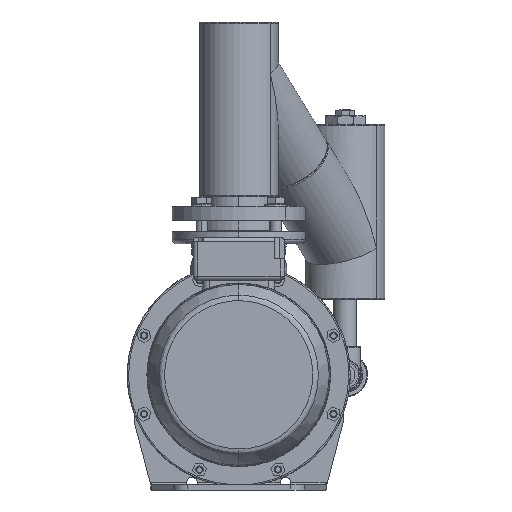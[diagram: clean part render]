
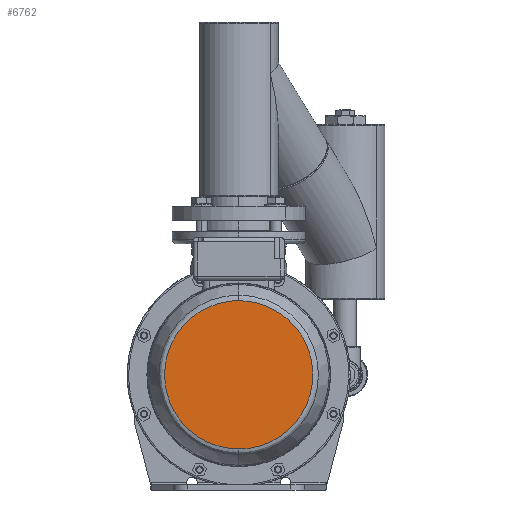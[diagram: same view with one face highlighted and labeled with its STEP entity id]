
A CAD part, front view. The second image highlights one B-rep face of the part: STEP entity #6762.
In plain terms, the highlighted planar face has unit normal (0, -1, 0).
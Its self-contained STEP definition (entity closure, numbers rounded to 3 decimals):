
#6645 = ORIENTED_EDGE ( 'NONE', *, *, #77966, .F. ) ;
#6762 = ADVANCED_FACE ( 'NONE', ( #123603 ), #123488, .T. ) ;
#6821 = ORIENTED_EDGE ( 'NONE', *, *, #6871, .F. ) ;
#6867 = EDGE_LOOP ( 'NONE', ( #6645, #6821 ) ) ;
#6871 = EDGE_CURVE ( 'NONE', #78052, #78041, #123949, .T. ) ;
#77966 = EDGE_CURVE ( 'NONE', #78041, #78052, #79056, .T. ) ;
#78041 = VERTEX_POINT ( 'NONE', #79353 ) ;
#78052 = VERTEX_POINT ( 'NONE', #79109 ) ;
#79056 =( BOUNDED_CURVE ( )  B_SPLINE_CURVE ( 3, ( #79144, #79143, #79140, #79139 ),
 .UNSPECIFIED., .F., .T. ) 
 B_SPLINE_CURVE_WITH_KNOTS ( ( 4, 4 ),
 ( 0., 1. ),
 .UNSPECIFIED. ) 
 CURVE ( )  GEOMETRIC_REPRESENTATION_ITEM ( )  RATIONAL_B_SPLINE_CURVE ( ( 1., 0.333, 0.333, 1. ) ) 
 REPRESENTATION_ITEM ( '' )  );
#79109 = CARTESIAN_POINT ( 'NONE',  ( -156.369, -795.681, 128.019 ) ) ;
#79139 = CARTESIAN_POINT ( 'NONE',  ( -156.369, -795.681, 128.019 ) ) ;
#79140 = CARTESIAN_POINT ( 'NONE',  ( -362.407, -795.681, 128.019 ) ) ;
#79143 = CARTESIAN_POINT ( 'NONE',  ( -362.407, -795.681, -78.019 ) ) ;
#79144 = CARTESIAN_POINT ( 'NONE',  ( -156.369, -795.681, -78.019 ) ) ;
#79353 = CARTESIAN_POINT ( 'NONE',  ( -156.369, -795.681, -78.019 ) ) ;
#123488 = PLANE ( 'NONE',  #123601 ) ;
#123598 = DIRECTION ( 'NONE',  ( 1., 0., 0. ) ) ;
#123599 = DIRECTION ( 'NONE',  ( 0., -1., 0. ) ) ;
#123600 = CARTESIAN_POINT ( 'NONE',  ( -156.369, -795.681, 25. ) ) ;
#123601 = AXIS2_PLACEMENT_3D ( 'NONE', #123600, #123599, #123598 ) ;
#123603 = FACE_OUTER_BOUND ( 'NONE', #6867, .T. ) ;
#123941 = CARTESIAN_POINT ( 'NONE',  ( -156.369, -795.681, -78.019 ) ) ;
#123942 = CARTESIAN_POINT ( 'NONE',  ( 49.669, -795.681, -78.019 ) ) ;
#123943 = CARTESIAN_POINT ( 'NONE',  ( 49.669, -795.681, 128.019 ) ) ;
#123944 = CARTESIAN_POINT ( 'NONE',  ( -156.369, -795.681, 128.019 ) ) ;
#123949 =( BOUNDED_CURVE ( )  B_SPLINE_CURVE ( 3, ( #123944, #123943, #123942, #123941 ),
 .UNSPECIFIED., .F., .T. ) 
 B_SPLINE_CURVE_WITH_KNOTS ( ( 4, 4 ),
 ( 0., 1. ),
 .UNSPECIFIED. ) 
 CURVE ( )  GEOMETRIC_REPRESENTATION_ITEM ( )  RATIONAL_B_SPLINE_CURVE ( ( 1., 0.333, 0.333, 1. ) ) 
 REPRESENTATION_ITEM ( '' )  );
